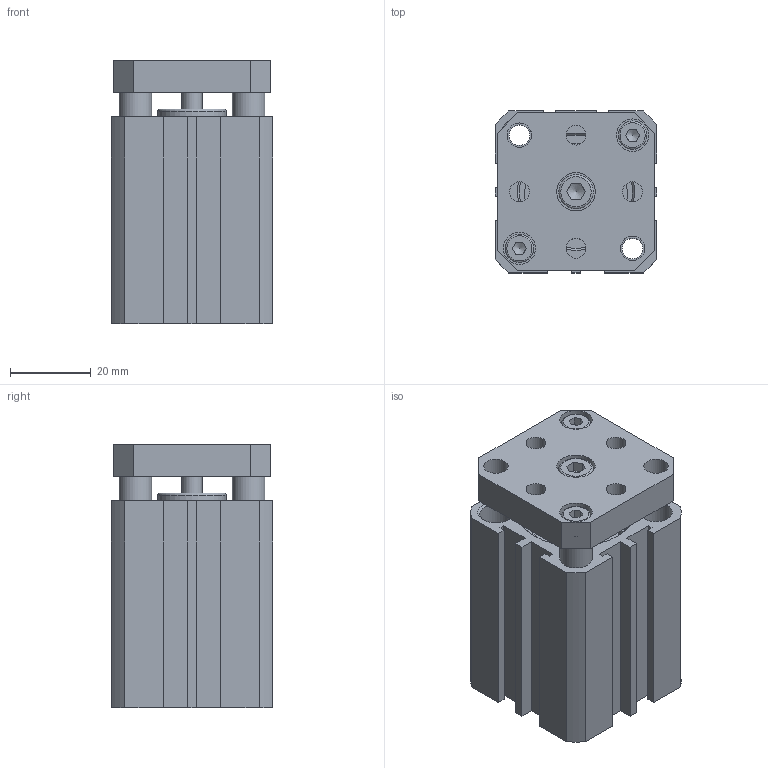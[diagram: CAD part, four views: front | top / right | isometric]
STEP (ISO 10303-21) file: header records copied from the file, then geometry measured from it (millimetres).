
FILE_DESCRIPTION((''),'2;1');
FILE_NAME('I:\3D電子目錄\氣缸\JTD\JTD\JTD25\JTD25x30.stp','2007-08-09T20:07:07',('Administrator'),(''),'Autodesk Inventor 11','Autodesk Inventor 11','');
FILE_SCHEMA(('AUTOMOTIVE_DESIGN { 1 0 10303 214 1 1 1 1 }'));
Length unit declared in the file: millimetre
Products named in the file (5): JTD25; R 形環 28; ISO 4762 M5 x 10; ISO 4762 M4 x 10
Assembly tree (6 placements, depth 2):
  JTD25
    JTD25
    R 形環 28  x2
    ISO 4762 M5 x 10
    ISO 4762 M4 x 10  x2
Bounding box: 40 x 40 x 65.2 mm (x, y, z)
Volume: 75306.9 mm3; surface area: 27314.9 mm2
Topology: 6 solids, 6 shells, 199 faces, 461 edges, 302 vertices
Faces by surface type: plane 111, cylinder 52, bspline 19, cone 12, torus 5
Full cylindrical faces by diameter (mm): 1.5 x2, 1.9 x4, 4 x2, 5 x1, 5.1 x2, 6 x2, 6.039 x2, 6.5 x2, 7 x2, 8 x6, 8.5 x1, 17 x2, 28 x4, 29.4 x2
Entity records: 5011 total; most frequent: CARTESIAN_POINT 1111, DIRECTION 778, ORIENTED_EDGE 676, EDGE_CURVE 338, AXIS2_PLACEMENT_3D 287, EDGE_LOOP 286, VERTEX_POINT 258, VECTOR 204
